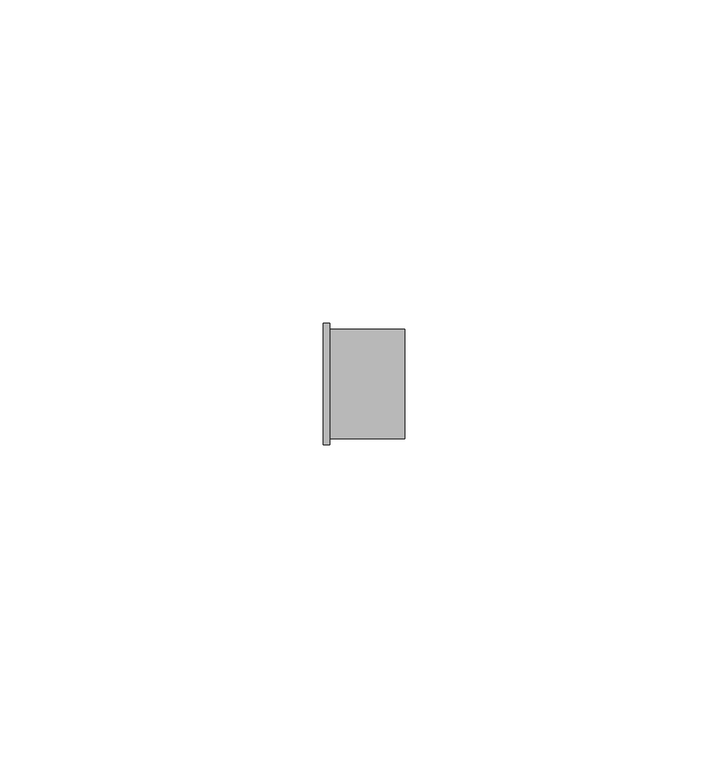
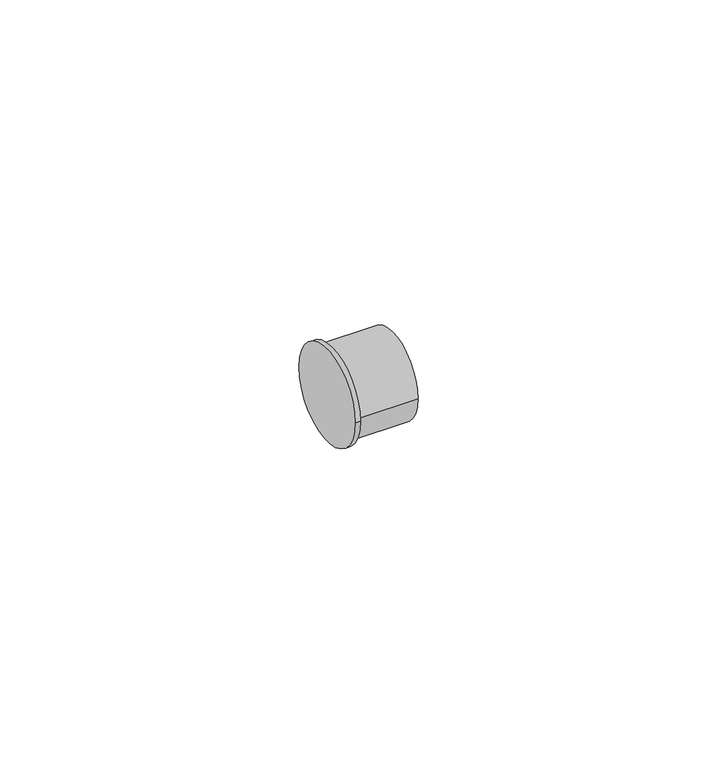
"""IFC4 building model written with IfcOpenShell, lengths in millimetres: pipe fitting geometry, Bucha de redução reta - Soldada - CU : Padrão."""

from ifc_helpers import new_model, si_unit, frame, origin, place, context, project, spatial, circle_curve, source, transform, mapped, element, save
from ifc_brep_helpers import plane_surface, cylinder_surface, advanced_brep


def pipe_fitting_afe73776(model_context):
    return source(origin(), model_context, "Body", "AdvancedBrep", [
        advanced_brep(
        [(0.0, -9.425, 0.0), (0.0, 9.425, 0.0), (1.0, -9.425, 0.0), (1.0, 9.425, 0.0), (1.0, -8.4937, 0.0), (1.0, 8.4937, 0.0), (12.6589, -8.4937, 0.0), (12.6589, 8.4937, 0.0)],
        [
            (0, 1, circle_curve(frame((0.0, 0.0, 0.0), z_axis=(-1.0, 0.0, 0.0), x_axis=(0.0, 1.0, 0.0)), 9.425)),
            (1, 0, circle_curve(frame((0.0, 0.0, 0.0), z_axis=(-1.0, 0.0, 0.0), x_axis=(0.0, 1.0, 0.0)), 9.425)),
            (2, 3, circle_curve(frame((1.0, 0.0, 0.0), z_axis=(1.0, 0.0, 0.0), x_axis=(0.0, 1.0, 0.0)), 9.425)),
            (3, 2, circle_curve(frame((1.0, 0.0, 0.0), z_axis=(1.0, 0.0, 0.0), x_axis=(0.0, 1.0, 0.0)), 9.425)),
            (4, 5, circle_curve(frame((1.0, 0.0, 0.0), z_axis=(-1.0, 0.0, 0.0), x_axis=(0.0, 1.0, 0.0)), 8.4937)),
            (5, 4, circle_curve(frame((1.0, 0.0, 0.0), z_axis=(-1.0, 0.0, 0.0), x_axis=(0.0, 1.0, 0.0)), 8.4937)),
            (0, 2),
            (3, 1),
            (6, 7, circle_curve(frame((12.6589, 0.0, 0.0), z_axis=(1.0, 0.0, 0.0), x_axis=(0.0, 1.0, 0.0)), 8.4937)),
            (7, 6, circle_curve(frame((12.6589, 0.0, 0.0), z_axis=(1.0, 0.0, 0.0), x_axis=(0.0, 1.0, 0.0)), 8.4937)),
            (7, 5),
            (4, 6),
        ],
        [
            plane_surface(frame((0.0, 0.0, 0.0), z_axis=(-1.0, 0.0, 0.0), x_axis=(0.0, 0.0, 1.0))),
            plane_surface(frame((1.0, 0.0, 0.0), z_axis=(1.0, 0.0, 0.0), x_axis=(0.0, 0.0, 1.0))),
            cylinder_surface(frame((0.0, 0.0, 0.0), z_axis=(-1.0, 0.0, 0.0), x_axis=(0.0, 1.0, 0.0)), 9.425),
            plane_surface(frame((12.6589, 0.0, 0.0), z_axis=(1.0, 0.0, 0.0), x_axis=(0.0, 0.0, 1.0))),
            cylinder_surface(frame((1.0, 0.0, 0.0), z_axis=(-1.0, 0.0, 0.0), x_axis=(0.0, 1.0, 0.0)), 8.4937),
        ],
        [
            (0, [[1, 2]]),
            (1, [[3, 4], [5, 6]]),
            (2, [[-1, 7, -4, 8]]),
            (2, [[-2, -8, -3, -7]]),
            (3, [[9, 10]]),
            (4, [[-10, 11, -5, 12]]),
            (4, [[-9, -12, -6, -11]]),
        ],
    ),
    ])


if __name__ == "__main__":
    model = new_model("IFC4")
    model_context = context("Model", 3, world=origin())
    ifc_project = project(units=[si_unit("LENGTHUNIT", "METRE", prefix="MILLI")], contexts=[model_context])
    site = spatial("IfcSite", under=ifc_project)
    building = spatial("IfcBuilding", under=site)
    placement = place(None, origin())
    pipe_fitting_shape = pipe_fitting_afe73776(model_context)
    element("IfcPipeFitting", 1, ObjectType="Bucha de redução reta - Soldada - CU : Padrão", at=placement, inside=building, context=model_context, shape_type="MappedRepresentation", body=[
        mapped(pipe_fitting_shape, transform((0.0, 0.0, 0.0), x_axis=(1.0, 0.0, 0.0), y_axis=(0.0, 1.0, 0.0), z_axis=(0.0, 0.0, 1.0))),
    ])
    save(model, "model.ifc")
